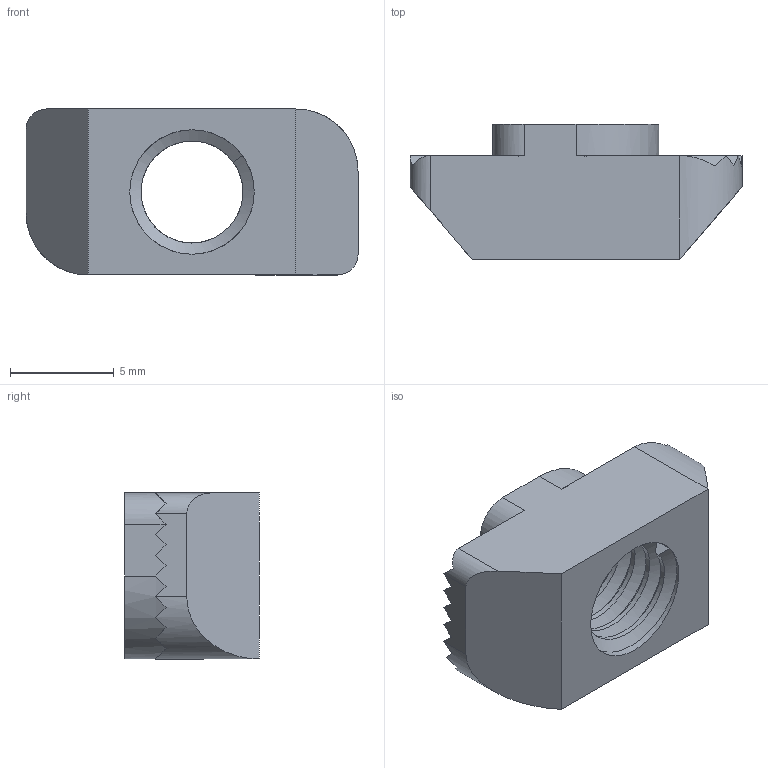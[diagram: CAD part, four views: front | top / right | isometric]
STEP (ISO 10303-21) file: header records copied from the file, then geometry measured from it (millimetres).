
FILE_DESCRIPTION (( 'STEP AP214' ), '1' );
FILE_NAME ('8-1-M6.STEP', '2018-03-02T21:25:38', ( '' ), ( '' ), 'SwSTEP 2.0', 'SolidWorks 2018', '' );
FILE_SCHEMA (( 'AUTOMOTIVE_DESIGN' ));
Length unit declared in the file: millimetre
Products named in the file (1): 8-1-M6
Bounding box: 16 x 6.5 x 8 mm (x, y, z)
Volume: 459.7 mm3; surface area: 615.8 mm2
Topology: 1 solids, 1 shells, 68 faces, 185 edges, 119 vertices
Faces by surface type: plane 44, cylinder 21, bspline 3
Entity records: 2949 total; most frequent: CARTESIAN_POINT 1421, ORIENTED_EDGE 370, DIRECTION 250, EDGE_CURVE 185, VERTEX_POINT 119, LINE 102, VECTOR 102, AXIS2_PLACEMENT_3D 74
